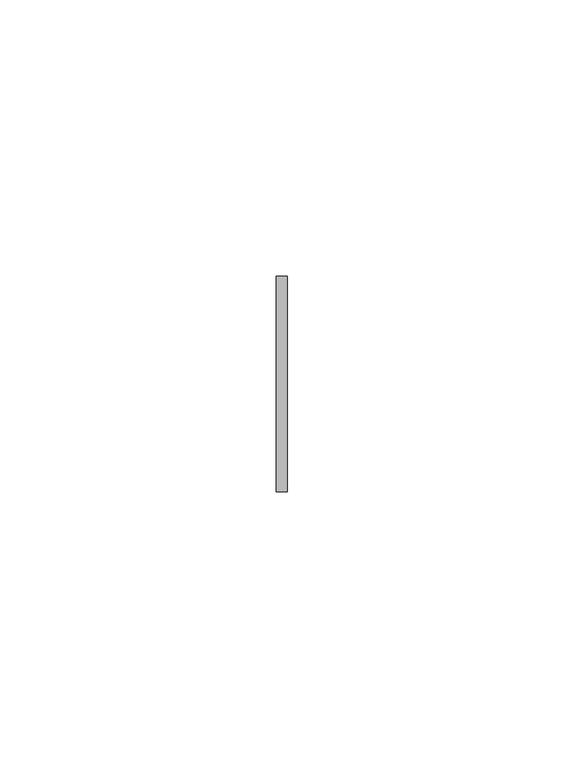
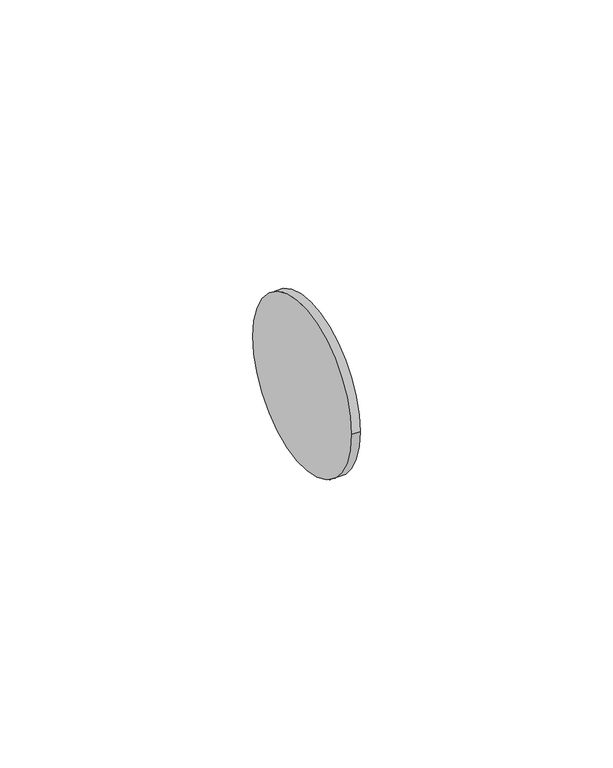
"""IFC4 building model written with IfcOpenShell, lengths in millimetres: pipe fitting geometry, PipeAccessory_GirpiHTA_CPVC_FlatGasketsForFlangeAdaptors : PipeAccessory_GirpiHTA_CPVC_FlatGasketsForFlangeAdaptors."""

from ifc_helpers import new_model, si_unit, point, frame, origin, origin_2d, place, context, project, spatial, circle_curve, trimmed, segment, composite_curve, outline, extrude, source, transform, mapped, element, save


def pipe_fitting_d7823302(model_context):
    return source(origin(), model_context, "Body", "SweptSolid", [
        extrude(outline(composite_curve([segment(trimmed(circle_curve(origin_2d(), 19.5), [point((-19.5, 0.0))], [point((19.5, 0.0))], False, "CARTESIAN"), True, "CONTINUOUS"), segment(trimmed(circle_curve(origin_2d(), 19.5), [point((19.5, 0.0))], [point((-19.5, 0.0))], False, "CARTESIAN"), True, "CONTINUOUS")], self_intersect=False)), frame((-1.0, 0.0, 0.0), z_axis=(1.0, 0.0, 0.0), x_axis=(0.0, 1.0, 0.0)), (0.0, 0.0, 1.0), 2.0),
    ])


if __name__ == "__main__":
    model = new_model("IFC4")
    model_context = context("Model", 3, world=origin())
    ifc_project = project(units=[si_unit("LENGTHUNIT", "METRE", prefix="MILLI")], contexts=[model_context])
    site = spatial("IfcSite", under=ifc_project)
    building = spatial("IfcBuilding", under=site)
    placement = place(None, origin())
    pipe_fitting_shape = pipe_fitting_d7823302(model_context)
    element("IfcPipeFitting", 1, ObjectType="PipeAccessory_GirpiHTA_CPVC_FlatGasketsForFlangeAdaptors : PipeAccessory_GirpiHTA_CPVC_FlatGasketsForFlangeAdaptors", at=placement, inside=building, context=model_context, shape_type="MappedRepresentation", body=[
        mapped(pipe_fitting_shape, transform((0.0, 0.0, 0.0), x_axis=(1.0, 0.0, 0.0), y_axis=(0.0, 1.0, 0.0), z_axis=(0.0, 0.0, 1.0))),
    ])
    save(model, "model.ifc")
